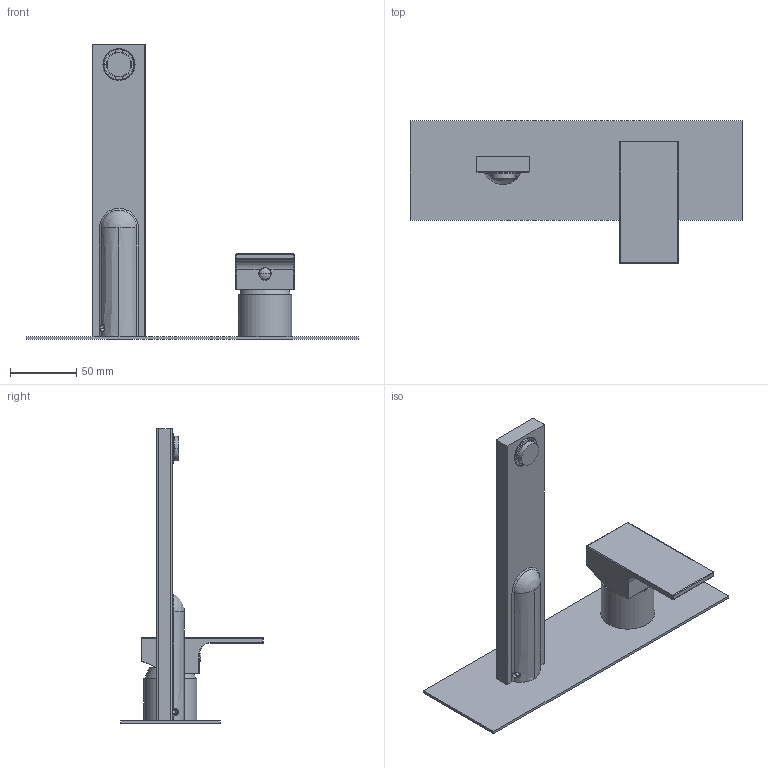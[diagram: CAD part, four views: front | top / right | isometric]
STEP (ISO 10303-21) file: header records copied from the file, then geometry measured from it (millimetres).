
FILE_DESCRIPTION((''),'2;1');
FILE_NAME('35548A_SW0001','2026-02-03T14:56:05',('carloff'),(''),'CREO PARAMETRIC BY PTC INC, 2022014','CREO PARAMETRIC BY PTC INC, 2022014','');
FILE_SCHEMA(('CONFIG_CONTROL_DESIGN'));
Products named in the file (1): 35548A_SW0001
Bounding box: 250 x 107.5 x 222 mm (x, y, z)
Volume: 200247.8 mm3; surface area: 118100.5 mm2
Topology: 3 solids, 3 shells, 900 faces, 2559 edges, 1668 vertices
Faces by surface type: cylinder 331, plane 320, torus 94, cone 74, bspline 63, sphere 18
Entity records: 60490 total; most frequent: CARTESIAN_POINT 37434, ORIENTED_EDGE 5100, DIRECTION 4577, EDGE_CURVE 2550, AXIS2_PLACEMENT_3D 1724, VERTEX_POINT 1668, VECTOR 1129, LINE 1129
